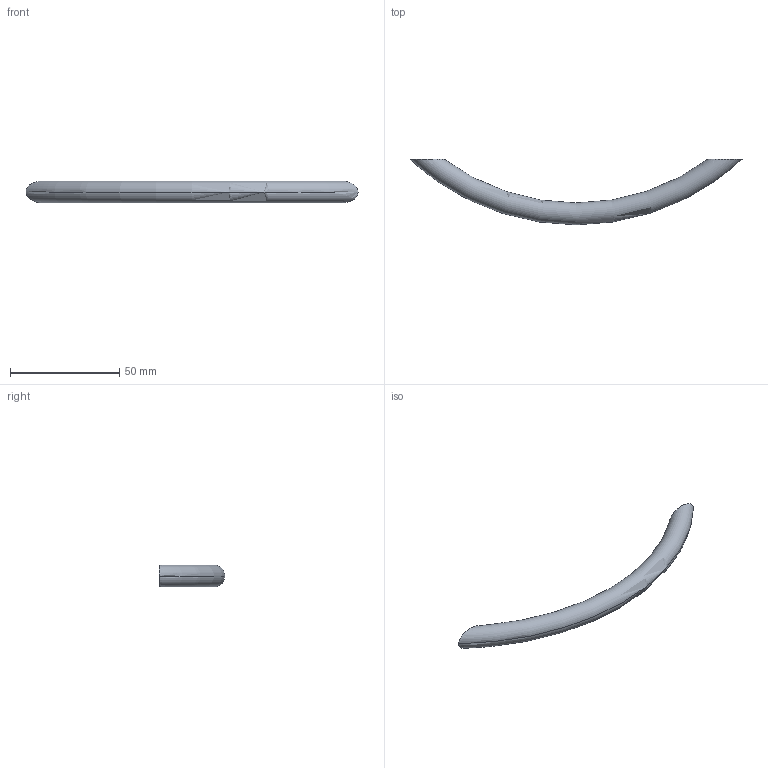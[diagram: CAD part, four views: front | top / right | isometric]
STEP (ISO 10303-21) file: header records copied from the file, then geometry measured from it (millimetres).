
FILE_DESCRIPTION( ( '' ), '1' );
FILE_NAME( 'D:/1.AUTOCAD EXPORT/Group 10/sheet_10_1/ 9070501.stp', '2013-10-22T03:16:23', ( '' ), ( '' ), ' ', ' ', ' ' );
FILE_SCHEMA( ( 'automotive_design' ) );
Length unit declared in the file: millimetre
Products named in the file (1): 1
Bounding box: 151.99 x 30 x 10 mm (x, y, z)
Volume: 11524 mm3; surface area: 5063.4 mm2
Topology: 1 solids, 1 shells, 10 faces, 18 edges, 12 vertices
Faces by surface type: cylinder 4, plane 4, torus 2
Entity records: 702 total; most frequent: CARTESIAN_POINT 245, DIRECTION 46, STYLED_ITEM 41, PRESENTATION_STYLE_ASSIGNMENT 41, COLOUR_RGB 41, ORIENTED_EDGE 36, AXIS2_PLACEMENT_3D 21, EDGE_CURVE 18
